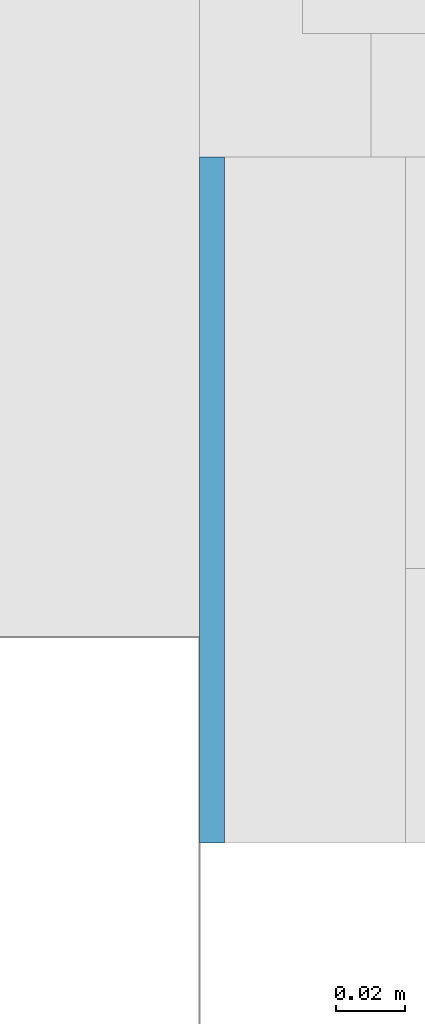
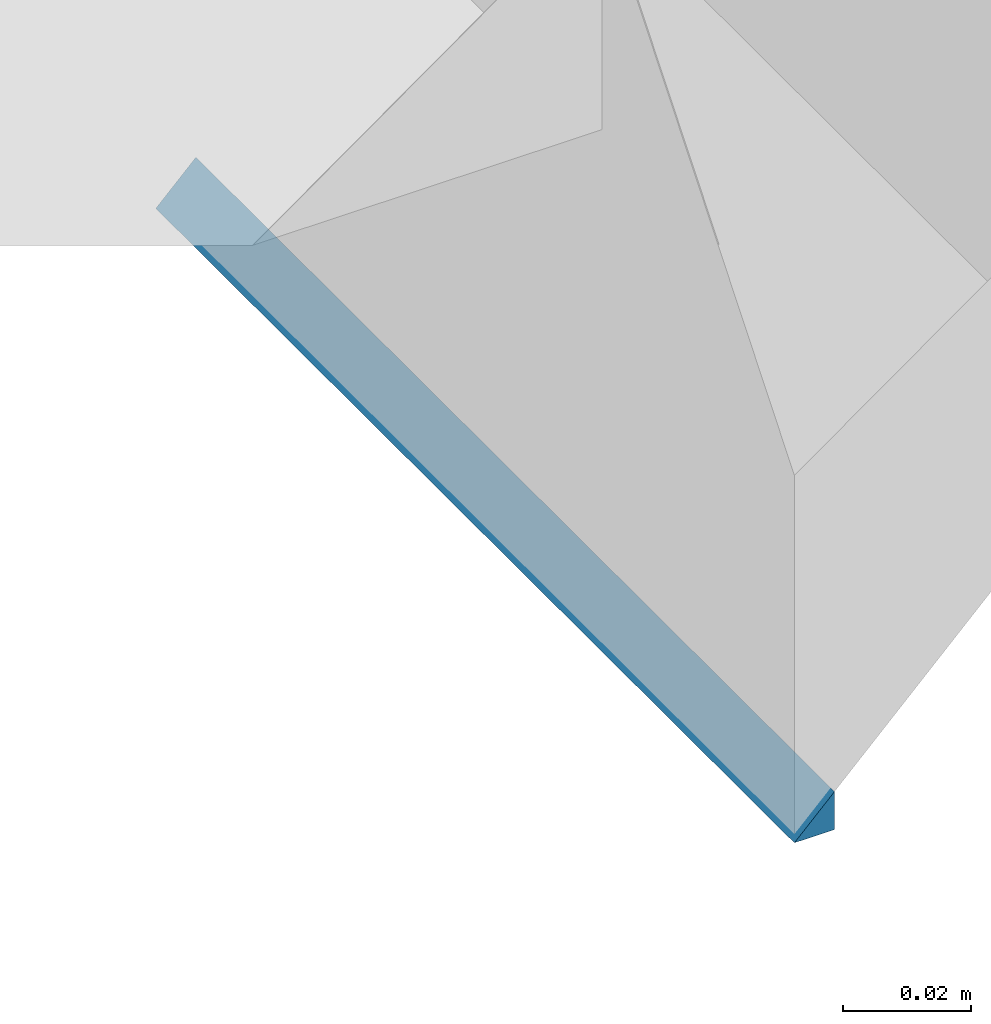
# One storey, part 99 of 260: 1 member, 1 element without a shape of its own.
"""IFC2X3 building model written with IfcOpenShell, lengths in millimetres."""

from ifc_helpers import new_model, entity, si_unit, converted_unit, derived_unit, money_unit, direction, frame, origin_with_axes, place, context, subcontext, project, spatial, faceted_brep, material, type_object, element, aggregate, save


model = new_model("IFC2X3")

# Units and contexts
model_context = context("Model", 3, precision=0.01, world=origin_with_axes(), true_north=direction((0.0, 1.0)))
body_context = subcontext(model_context, "Body", "Model", "MODEL_VIEW")
ifc_project = project(units=[si_unit("LENGTHUNIT", "METRE", prefix="MILLI"), si_unit("AREAUNIT", "SQUARE_METRE"), si_unit("VOLUMEUNIT", "CUBIC_METRE"), converted_unit("PLANEANGLEUNIT", "DEGREE", entity("IfcPlaneAngleMeasure", 0.0174532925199), si_unit("PLANEANGLEUNIT", "RADIAN"), dimensions=[0, 0, 0, 0, 0, 0, 0]), money_unit("EUR"), converted_unit("TIMEUNIT", "Year", entity("IfcTimeMeasure", 31556926.0), si_unit("TIMEUNIT", "SECOND"), dimensions=[0, 0, 1, 0, 0, 0, 0]), si_unit("MASSUNIT", "GRAM", prefix="KILO"), si_unit("THERMODYNAMICTEMPERATUREUNIT", "DEGREE_CELSIUS"), si_unit("LUMINOUSINTENSITYUNIT", "LUMEN"), si_unit("ENERGYUNIT", "JOULE", prefix="MEGA"), derived_unit("THERMALCONDUCTANCEUNIT", [(si_unit("POWERUNIT", "WATT"), 1), (si_unit("LENGTHUNIT", "METRE"), -1), (si_unit("THERMODYNAMICTEMPERATUREUNIT", "KELVIN"), -1)]), derived_unit("SPECIFICHEATCAPACITYUNIT", [(si_unit("ENERGYUNIT", "JOULE"), 1), (si_unit("MASSUNIT", "GRAM", prefix="KILO"), -1), (si_unit("THERMODYNAMICTEMPERATUREUNIT", "KELVIN"), -1)]), derived_unit("MASSDENSITYUNIT", [(si_unit("MASSUNIT", "GRAM", prefix="KILO"), 1), (si_unit("VOLUMEUNIT", "CUBIC_METRE"), -1)])], contexts=[model_context])

# Site, building, storey
site_placement = place(None, origin_with_axes())
site = spatial("IfcSite", under=ifc_project, at=site_placement, Name="Kolde pst 67a", CompositionType="ELEMENT")
building_placement = place(site_placement, origin_with_axes())
building = spatial("IfcBuilding", under=site, at=building_placement, Name="Riigigümnaasium", CompositionType="ELEMENT")
storey_placement = place(building_placement, origin_with_axes())
storey = spatial("IfcBuildingStorey", under=building, at=storey_placement, Name="1. korrus", CompositionType="ELEMENT", Elevation=0.0)

# Curtain wall, member
curtain_wall_type = type_object("IfcCurtainWallType", Name="Curtain Wall Type", PredefinedType="NOTDEFINED")
curtain_wall_placement = place(storey_placement, frame((7516.12873899, 84579.9999608, 0.0), z_axis=(0.0, 0.0, 1.0), x_axis=(1.0, 0.0, 0.0)))
curtain_wall = element("IfcCurtainWall", 1, at=curtain_wall_placement, inside=storey, type_object=curtain_wall_type, Name="Klaasfassaadi puitkarkass")
ifc_material = material(Name="_KANDETARIND - liimpuit vastavalt EK osale")
member_type = type_object("IfcMemberType", Name="Boundary Frame 60 x 200", PredefinedType="MEMBER")
member_placement = place(curtain_wall_placement, frame((-703.628467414, 0.0, 0.0), z_axis=(1.0, 0.0, 0.0), x_axis=(0.0, 0.0, 1.0)))
member = element("IfcMember", 2, at=member_placement, type_object=member_type, material=ifc_material, Name="RF RAAM SERV-410", ObjectType="MEMBER", context=body_context, shape_type="Brep", body=[
    faceted_brep([(0.0, 0.0, 0.0), (7.25693482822, 0.0, 7.25693482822), (0.0, 0.0, 7.25693482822), (0.0, 200.0, 0.0), (7.25693482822, 200.0, 7.25693482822), (0.0, 200.0, 7.25693482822)], [[[0, 1, 2]], [[1, 0, 3, 4]], [[1, 4, 5, 2]], [[3, 0, 2, 5]], [[4, 3, 5]]]),
])
aggregate(curtain_wall, [member])

save(model, "model.ifc")
